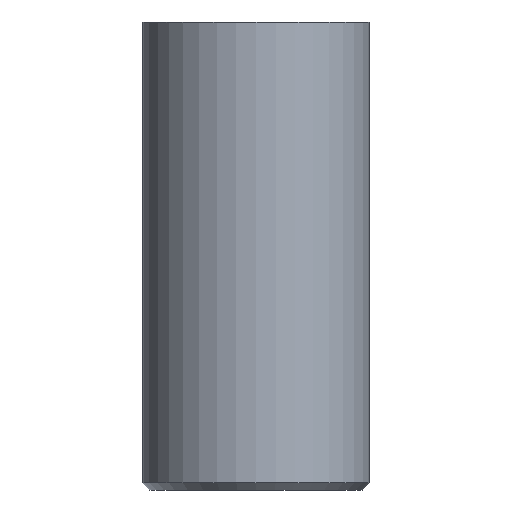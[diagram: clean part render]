
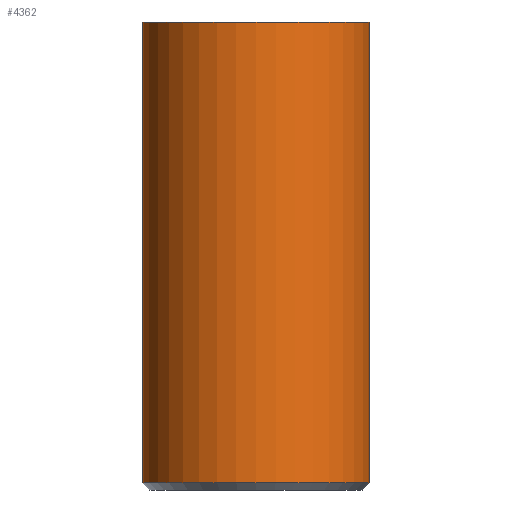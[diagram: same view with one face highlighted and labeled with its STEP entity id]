
A CAD part, front view. The second image highlights one B-rep face of the part: STEP entity #4362.
In plain terms, the highlighted cylindrical face has radius 8 mm (diameter 16 mm), a full revolution.
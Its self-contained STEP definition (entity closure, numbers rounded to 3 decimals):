
#438=CIRCLE('',#4404,8.);
#471=CIRCLE('',#4517,8.);
#486=CYLINDRICAL_SURFACE('',#4518,8.);
#711=FACE_OUTER_BOUND('',#959,.T.);
#959=EDGE_LOOP('',(#3998,#3999,#4000,#4001));
#1296=LINE('',#8704,#1639);
#1639=VECTOR('',#5119,8.);
#1676=VERTEX_POINT('',#5220);
#2078=VERTEX_POINT('',#8700);
#2117=EDGE_CURVE('',#1676,#1676,#438,.T.);
#2721=EDGE_CURVE('',#2078,#2078,#471,.T.);
#2723=EDGE_CURVE('',#1676,#2078,#1296,.T.);
#3998=ORIENTED_EDGE('',*,*,#2117,.F.);
#3999=ORIENTED_EDGE('',*,*,#2723,.T.);
#4000=ORIENTED_EDGE('',*,*,#2721,.F.);
#4001=ORIENTED_EDGE('',*,*,#2723,.F.);
#4362=ADVANCED_FACE('',(#711),#486,.T.);
#4404=AXIS2_PLACEMENT_3D('',#5221,#4583,#4584);
#4517=AXIS2_PLACEMENT_3D('',#8701,#5114,#5115);
#4518=AXIS2_PLACEMENT_3D('',#8703,#5117,#5118);
#4583=DIRECTION('center_axis',(0.,0.,1.));
#4584=DIRECTION('ref_axis',(1.,0.,0.));
#5114=DIRECTION('center_axis',(0.,0.,-1.));
#5115=DIRECTION('ref_axis',(1.,0.,0.));
#5117=DIRECTION('center_axis',(0.,0.,1.));
#5118=DIRECTION('ref_axis',(1.,0.,0.));
#5119=DIRECTION('',(0.,0.,-1.));
#5220=CARTESIAN_POINT('',(-8.,0.,33.));
#5221=CARTESIAN_POINT('Origin',(0.,0.,33.));
#8700=CARTESIAN_POINT('',(-8.,0.,0.5));
#8701=CARTESIAN_POINT('Origin',(0.,0.,0.5));
#8703=CARTESIAN_POINT('Origin',(0.,0.,0.));
#8704=CARTESIAN_POINT('',(-8.,0.,0.));
